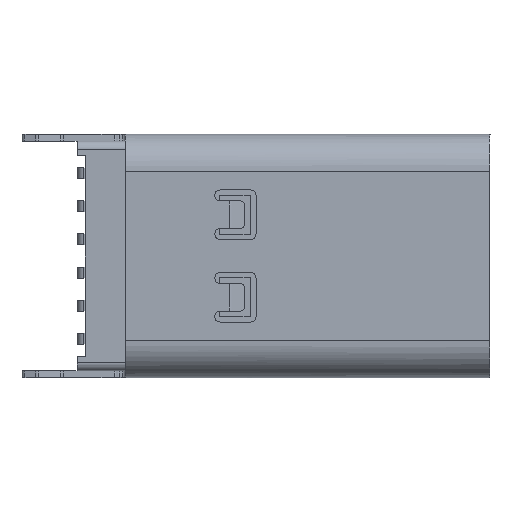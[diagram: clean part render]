
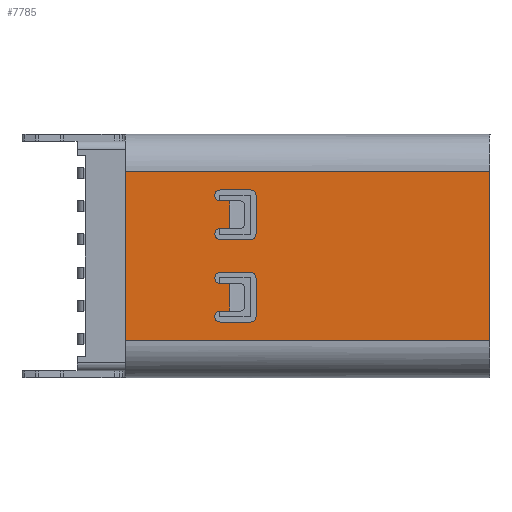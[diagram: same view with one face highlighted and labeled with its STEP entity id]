
A CAD part, front view. The second image highlights one B-rep face of the part: STEP entity #7785.
In plain terms, the highlighted planar face has unit normal (0, -1, 0).
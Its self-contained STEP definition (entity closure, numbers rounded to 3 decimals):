
#34=DIRECTION('',(0.,0.,-1.));
#35=VECTOR('',#34,6.14);
#36=CARTESIAN_POINT('',(17.2,1.97,-2.43));
#37=LINE('',#36,#35);
#38=CARTESIAN_POINT('',(8.5,1.97,-4.7));
#39=DIRECTION('',(0.,-1.,0.));
#40=DIRECTION('',(0.,0.,-1.));
#41=AXIS2_PLACEMENT_3D('',#38,#39,#40);
#43=CARTESIAN_POINT('',(8.5,1.97,-3.3));
#44=DIRECTION('',(0.,-1.,0.));
#45=DIRECTION('',(1.,0.,0.));
#46=AXIS2_PLACEMENT_3D('',#43,#44,#45);
#48=CARTESIAN_POINT('',(7.4,1.97,-3.3));
#49=DIRECTION('',(0.,-1.,0.));
#50=DIRECTION('',(0.,0.,1.));
#51=AXIS2_PLACEMENT_3D('',#48,#49,#50);
#53=CARTESIAN_POINT('',(7.4,1.97,-3.3));
#54=DIRECTION('',(0.,-1.,0.));
#55=DIRECTION('',(-1.,0.,0.));
#56=AXIS2_PLACEMENT_3D('',#53,#54,#55);
#58=CARTESIAN_POINT('',(7.4,1.97,-4.7));
#59=DIRECTION('',(0.,-1.,0.));
#60=DIRECTION('',(0.,0.,1.));
#61=AXIS2_PLACEMENT_3D('',#58,#59,#60);
#63=CARTESIAN_POINT('',(8.5,1.97,-7.7));
#64=DIRECTION('',(0.,-1.,0.));
#65=DIRECTION('',(0.,0.,-1.));
#66=AXIS2_PLACEMENT_3D('',#63,#64,#65);
#68=CARTESIAN_POINT('',(8.5,1.97,-6.3));
#69=DIRECTION('',(0.,-1.,0.));
#70=DIRECTION('',(1.,0.,0.));
#71=AXIS2_PLACEMENT_3D('',#68,#69,#70);
#73=CARTESIAN_POINT('',(7.4,1.97,-6.3));
#74=DIRECTION('',(0.,-1.,0.));
#75=DIRECTION('',(0.,0.,1.));
#76=AXIS2_PLACEMENT_3D('',#73,#74,#75);
#78=CARTESIAN_POINT('',(7.4,1.97,-6.3));
#79=DIRECTION('',(0.,-1.,0.));
#80=DIRECTION('',(-1.,0.,0.));
#81=AXIS2_PLACEMENT_3D('',#78,#79,#80);
#83=CARTESIAN_POINT('',(7.4,1.97,-7.7));
#84=DIRECTION('',(0.,-1.,0.));
#85=DIRECTION('',(0.,0.,1.));
#86=AXIS2_PLACEMENT_3D('',#83,#84,#85);
#93=DIRECTION('',(0.,0.,-1.));
#94=VECTOR('',#93,6.14);
#95=CARTESIAN_POINT('',(3.96,1.97,-2.43));
#96=LINE('',#95,#94);
#106=DIRECTION('',(-1.,0.,0.));
#107=VECTOR('',#106,13.24);
#108=CARTESIAN_POINT('',(17.2,1.97,-2.43));
#109=LINE('',#108,#107);
#531=DIRECTION('',(1.,0.,0.));
#532=VECTOR('',#531,13.24);
#533=CARTESIAN_POINT('',(3.96,1.97,-8.57));
#534=LINE('',#533,#532);
#5395=DIRECTION('',(-1.,0.,0.));
#5396=VECTOR('',#5395,1.1);
#5397=CARTESIAN_POINT('',(8.5,1.97,-4.9));
#5398=LINE('',#5397,#5396);
#5403=DIRECTION('',(1.,0.,0.));
#5404=VECTOR('',#5403,0.344);
#5405=CARTESIAN_POINT('',(7.4,1.97,-4.5));
#5406=LINE('',#5405,#5404);
#5433=DIRECTION('',(0.,0.,1.));
#5434=VECTOR('',#5433,1.);
#5435=CARTESIAN_POINT('',(7.744,1.97,-4.5));
#5436=LINE('',#5435,#5434);
#5437=DIRECTION('',(-1.,0.,0.));
#5438=VECTOR('',#5437,0.344);
#5439=CARTESIAN_POINT('',(7.744,1.97,-3.5));
#5440=LINE('',#5439,#5438);
#5467=DIRECTION('',(1.,0.,0.));
#5468=VECTOR('',#5467,1.1);
#5469=CARTESIAN_POINT('',(7.4,1.97,-3.1));
#5470=LINE('',#5469,#5468);
#5479=DIRECTION('',(0.,0.,-1.));
#5480=VECTOR('',#5479,1.4);
#5481=CARTESIAN_POINT('',(8.7,1.97,-3.3));
#5482=LINE('',#5481,#5480);
#5654=DIRECTION('',(-1.,0.,0.));
#5655=VECTOR('',#5654,1.1);
#5656=CARTESIAN_POINT('',(8.5,1.97,-7.9));
#5657=LINE('',#5656,#5655);
#5670=DIRECTION('',(1.,0.,0.));
#5671=VECTOR('',#5670,0.344);
#5672=CARTESIAN_POINT('',(7.4,1.97,-7.5));
#5673=LINE('',#5672,#5671);
#5700=DIRECTION('',(0.,0.,1.));
#5701=VECTOR('',#5700,1.);
#5702=CARTESIAN_POINT('',(7.744,1.97,-7.5));
#5703=LINE('',#5702,#5701);
#5704=DIRECTION('',(-1.,0.,0.));
#5705=VECTOR('',#5704,0.344);
#5706=CARTESIAN_POINT('',(7.744,1.97,-6.5));
#5707=LINE('',#5706,#5705);
#5734=DIRECTION('',(1.,0.,0.));
#5735=VECTOR('',#5734,1.1);
#5736=CARTESIAN_POINT('',(7.4,1.97,-6.1));
#5737=LINE('',#5736,#5735);
#5750=DIRECTION('',(0.,0.,-1.));
#5751=VECTOR('',#5750,1.4);
#5752=CARTESIAN_POINT('',(8.7,1.97,-6.3));
#5753=LINE('',#5752,#5751);
#6382=CARTESIAN_POINT('',(17.2,1.97,-8.57));
#6383=VERTEX_POINT('',#6382);
#6384=CARTESIAN_POINT('',(17.2,1.97,-2.43));
#6385=VERTEX_POINT('',#6384);
#6912=CARTESIAN_POINT('',(3.96,1.97,-2.43));
#6913=CARTESIAN_POINT('',(3.96,1.97,-8.57));
#6914=VERTEX_POINT('',#6912);
#6915=VERTEX_POINT('',#6913);
#6916=CARTESIAN_POINT('',(8.5,1.97,-4.9));
#6917=CARTESIAN_POINT('',(7.4,1.97,-4.9));
#6918=VERTEX_POINT('',#6916);
#6919=VERTEX_POINT('',#6917);
#6924=CARTESIAN_POINT('',(7.4,1.97,-4.5));
#6925=VERTEX_POINT('',#6924);
#6926=CARTESIAN_POINT('',(7.744,1.97,-4.5));
#6927=VERTEX_POINT('',#6926);
#6940=CARTESIAN_POINT('',(7.744,1.97,-3.5));
#6941=VERTEX_POINT('',#6940);
#6942=CARTESIAN_POINT('',(7.4,1.97,-3.5));
#6943=VERTEX_POINT('',#6942);
#6956=CARTESIAN_POINT('',(7.4,1.97,-3.1));
#6957=CARTESIAN_POINT('',(7.2,1.97,-3.3));
#6958=VERTEX_POINT('',#6956);
#6959=VERTEX_POINT('',#6957);
#6960=CARTESIAN_POINT('',(8.5,1.97,-3.1));
#6961=VERTEX_POINT('',#6960);
#6966=CARTESIAN_POINT('',(8.7,1.97,-3.3));
#6967=VERTEX_POINT('',#6966);
#6968=CARTESIAN_POINT('',(8.7,1.97,-4.7));
#6969=VERTEX_POINT('',#6968);
#7014=CARTESIAN_POINT('',(8.5,1.97,-7.9));
#7015=CARTESIAN_POINT('',(8.7,1.97,-7.7));
#7016=VERTEX_POINT('',#7014);
#7017=VERTEX_POINT('',#7015);
#7018=CARTESIAN_POINT('',(7.4,1.97,-7.9));
#7019=VERTEX_POINT('',#7018);
#7020=CARTESIAN_POINT('',(7.4,1.97,-7.5));
#7021=VERTEX_POINT('',#7020);
#7022=CARTESIAN_POINT('',(7.744,1.97,-7.5));
#7023=VERTEX_POINT('',#7022);
#7036=CARTESIAN_POINT('',(7.744,1.97,-6.5));
#7037=VERTEX_POINT('',#7036);
#7038=CARTESIAN_POINT('',(7.4,1.97,-6.5));
#7039=VERTEX_POINT('',#7038);
#7052=CARTESIAN_POINT('',(7.4,1.97,-6.1));
#7053=CARTESIAN_POINT('',(7.2,1.97,-6.3));
#7054=VERTEX_POINT('',#7052);
#7055=VERTEX_POINT('',#7053);
#7056=CARTESIAN_POINT('',(8.5,1.97,-6.1));
#7057=VERTEX_POINT('',#7056);
#7058=CARTESIAN_POINT('',(8.7,1.97,-6.3));
#7059=VERTEX_POINT('',#7058);
#7723=CARTESIAN_POINT('',(10.58,1.97,-5.5));
#7724=DIRECTION('',(0.,1.,0.));
#7725=DIRECTION('',(0.,0.,-1.));
#7726=AXIS2_PLACEMENT_3D('',#7723,#7724,#7725);
#7727=PLANE('',#7726);
#7729=ORIENTED_EDGE('',*,*,#7728,.F.);
#7731=ORIENTED_EDGE('',*,*,#7730,.F.);
#7733=ORIENTED_EDGE('',*,*,#7732,.T.);
#7735=ORIENTED_EDGE('',*,*,#7734,.F.);
#7736=EDGE_LOOP('',(#7729,#7731,#7733,#7735));
#7737=FACE_OUTER_BOUND('',#7736,.F.);
#7739=ORIENTED_EDGE('',*,*,#7738,.F.);
#7741=ORIENTED_EDGE('',*,*,#7740,.T.);
#7743=ORIENTED_EDGE('',*,*,#7742,.F.);
#7745=ORIENTED_EDGE('',*,*,#7744,.T.);
#7747=ORIENTED_EDGE('',*,*,#7746,.F.);
#7749=ORIENTED_EDGE('',*,*,#7748,.T.);
#7751=ORIENTED_EDGE('',*,*,#7750,.T.);
#7753=ORIENTED_EDGE('',*,*,#7752,.F.);
#7755=ORIENTED_EDGE('',*,*,#7754,.F.);
#7757=ORIENTED_EDGE('',*,*,#7756,.F.);
#7759=ORIENTED_EDGE('',*,*,#7758,.T.);
#7760=EDGE_LOOP('',(#7739,#7741,#7743,#7745,#7747,#7749,#7751,#7753,#7755,#7757,
#7759));
#7761=FACE_BOUND('',#7760,.F.);
#7763=ORIENTED_EDGE('',*,*,#7762,.F.);
#7764=ORIENTED_EDGE('',*,*,#7713,.T.);
#7766=ORIENTED_EDGE('',*,*,#7765,.F.);
#7768=ORIENTED_EDGE('',*,*,#7767,.T.);
#7770=ORIENTED_EDGE('',*,*,#7769,.F.);
#7772=ORIENTED_EDGE('',*,*,#7771,.T.);
#7774=ORIENTED_EDGE('',*,*,#7773,.T.);
#7776=ORIENTED_EDGE('',*,*,#7775,.F.);
#7778=ORIENTED_EDGE('',*,*,#7777,.F.);
#7780=ORIENTED_EDGE('',*,*,#7779,.F.);
#7782=ORIENTED_EDGE('',*,*,#7781,.T.);
#7783=EDGE_LOOP('',(#7763,#7764,#7766,#7768,#7770,#7772,#7774,#7776,#7778,#7780,
#7782));
#7784=FACE_BOUND('',#7783,.F.);
#42=CIRCLE('',#41,0.2);
#47=CIRCLE('',#46,0.2);
#52=CIRCLE('',#51,0.2);
#57=CIRCLE('',#56,0.2);
#62=CIRCLE('',#61,0.2);
#67=CIRCLE('',#66,0.2);
#72=CIRCLE('',#71,0.2);
#77=CIRCLE('',#76,0.2);
#82=CIRCLE('',#81,0.2);
#87=CIRCLE('',#86,0.2);
#7713=EDGE_CURVE('',#7016,#7017,#67,.T.);
#7728=EDGE_CURVE('',#6914,#6915,#96,.T.);
#7730=EDGE_CURVE('',#6385,#6914,#109,.T.);
#7732=EDGE_CURVE('',#6385,#6383,#37,.T.);
#7734=EDGE_CURVE('',#6915,#6383,#534,.T.);
#7738=EDGE_CURVE('',#6918,#6919,#5398,.T.);
#7740=EDGE_CURVE('',#6918,#6969,#42,.T.);
#7742=EDGE_CURVE('',#6967,#6969,#5482,.T.);
#7744=EDGE_CURVE('',#6967,#6961,#47,.T.);
#7746=EDGE_CURVE('',#6958,#6961,#5470,.T.);
#7748=EDGE_CURVE('',#6958,#6959,#52,.T.);
#7750=EDGE_CURVE('',#6959,#6943,#57,.T.);
#7752=EDGE_CURVE('',#6941,#6943,#5440,.T.);
#7754=EDGE_CURVE('',#6927,#6941,#5436,.T.);
#7756=EDGE_CURVE('',#6925,#6927,#5406,.T.);
#7758=EDGE_CURVE('',#6925,#6919,#62,.T.);
#7762=EDGE_CURVE('',#7016,#7019,#5657,.T.);
#7765=EDGE_CURVE('',#7059,#7017,#5753,.T.);
#7767=EDGE_CURVE('',#7059,#7057,#72,.T.);
#7769=EDGE_CURVE('',#7054,#7057,#5737,.T.);
#7771=EDGE_CURVE('',#7054,#7055,#77,.T.);
#7773=EDGE_CURVE('',#7055,#7039,#82,.T.);
#7775=EDGE_CURVE('',#7037,#7039,#5707,.T.);
#7777=EDGE_CURVE('',#7023,#7037,#5703,.T.);
#7779=EDGE_CURVE('',#7021,#7023,#5673,.T.);
#7781=EDGE_CURVE('',#7021,#7019,#87,.T.);
#7785=ADVANCED_FACE('',(#7737,#7761,#7784),#7727,.F.);
